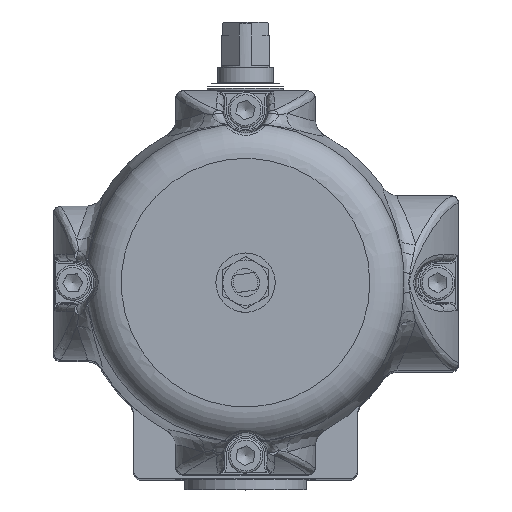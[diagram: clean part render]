
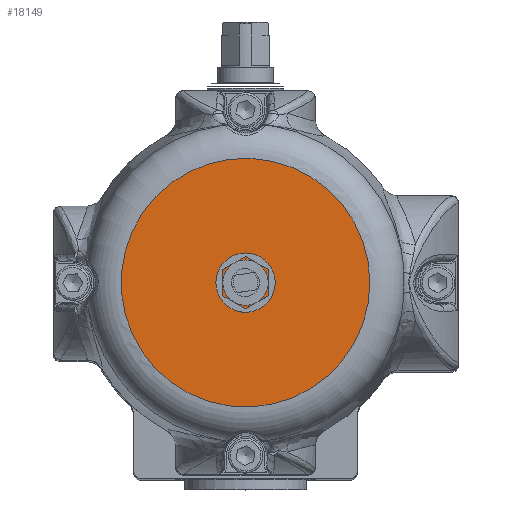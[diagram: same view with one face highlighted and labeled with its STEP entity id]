
A CAD part, top view. The second image highlights one B-rep face of the part: STEP entity #18149.
In plain terms, the highlighted planar face has unit normal (0, 0, 1).
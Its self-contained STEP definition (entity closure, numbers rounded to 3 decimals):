
#11804=CARTESIAN_POINT('',(35.612,0.,201.9));
#11805=VERTEX_POINT('',#11804);
#11806=CARTESIAN_POINT('',(0.,0.,201.9));
#11807=DIRECTION('',(0.0,0.0,-1.0));
#11808=DIRECTION('',(1.0,0.0,0.0));
#11809=AXIS2_PLACEMENT_3D('',#11806,#11807,#11808);
#11810=CIRCLE('',#11809,35.612);
#11811=EDGE_CURVE('',#11805,#11805,#11810,.T.);
#18130=CARTESIAN_POINT('',(17.806,0.,201.9));
#18131=DIRECTION('',(0.0,0.0,1.0));
#18132=DIRECTION('',(0.0,1.0,0.0));
#18133=AXIS2_PLACEMENT_3D('',#18130,#18131,#18132);
#18134=PLANE('',#18133);
#18135=ORIENTED_EDGE('',*,*,#11811,.F.);
#18136=EDGE_LOOP('',(#18135));
#18137=FACE_OUTER_BOUND('',#18136,.T.);
#18138=CARTESIAN_POINT('',(0.,3.323,201.9));
#18139=VERTEX_POINT('',#18138);
#18140=CARTESIAN_POINT('',(0.,0.,201.9));
#18141=DIRECTION('',(0.0,0.0,-1.0));
#18142=DIRECTION('',(0.0,1.0,0.0));
#18143=AXIS2_PLACEMENT_3D('',#18140,#18141,#18142);
#18144=CIRCLE('',#18143,3.324);
#18145=EDGE_CURVE('',#18139,#18139,#18144,.T.);
#18146=ORIENTED_EDGE('',*,*,#18145,.T.);
#18147=EDGE_LOOP('',(#18146));
#18148=FACE_BOUND('',#18147,.T.);
#18149=ADVANCED_FACE('',(#18137,#18148),#18134,.T.);
